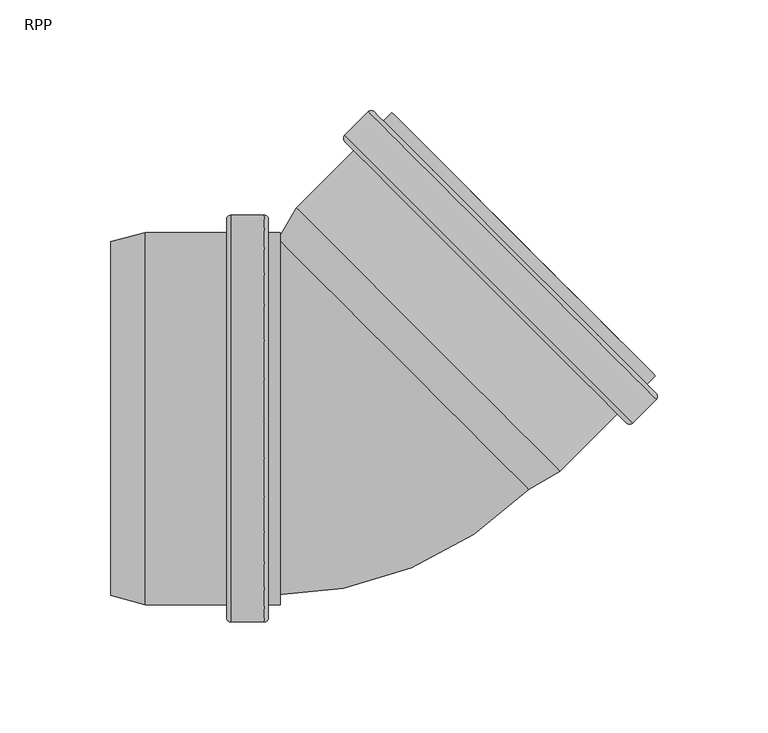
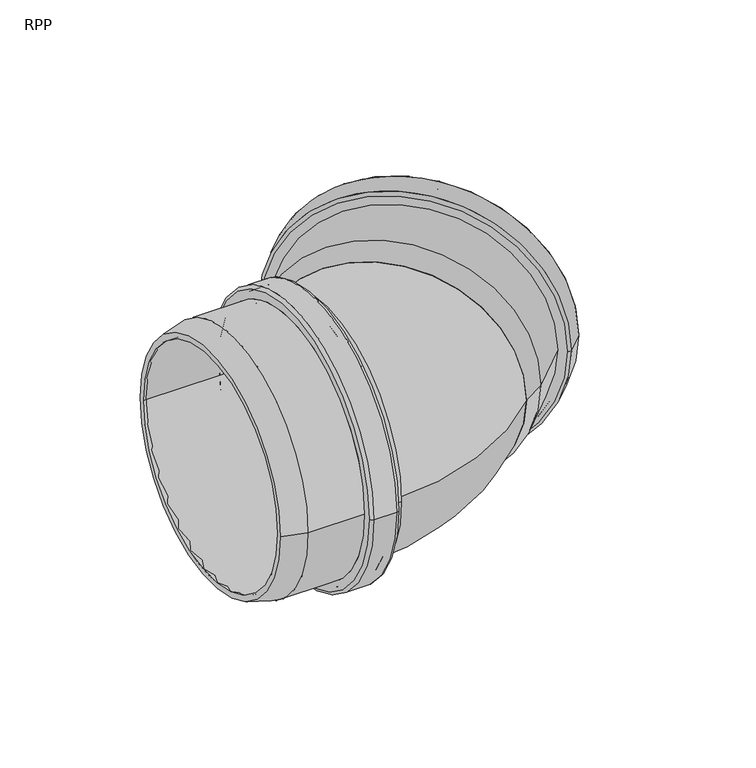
"""IFC4 building model written with IfcOpenShell, lengths in millimetres: pipe fitting geometry, RAUPIANO PLUS Bend : RPP."""

import ifcopenshell
import ifcopenshell.guid

model = None  # the IFC model being written
_history = None  # IfcOwnerHistory: only IFC2X3 demands one
_inside = {}  # id of a spatial element -> (the spatial element, [elements in it])
_under = {}  # id of a project, library or spatial element -> (it, [spatial elements below it])
_declared = {}  # id of a project -> (the project, [libraries it declares])
_typed = {}  # id of a type object -> (the type object, [elements of that type])
_made_of = {}  # id of a material, layer set ... -> (it, [elements and type objects made of it])


def new_model(schema):
    """Start an empty IFC model of exactly this schema.

    Asked for "IFC4X3", IfcOpenShell would pick the latest addendum, in which some entities
    have other attributes; the version numbers below select the first issue.
    IFC2X3 requires an IfcOwnerHistory on every rooted entity: one is made here for all.
    """
    global model, _history
    if schema == "IFC4X3":
        model = ifcopenshell.file(schema_version=(4, 3, 0, 0))
    else:
        model = ifcopenshell.file(schema=schema)
    _inside.clear()
    _under.clear()
    _declared.clear()
    _typed.clear()
    _made_of.clear()
    _history = None
    if model.schema == "IFC2X3":
        org = make("IfcOrganization", Name="unknown")
        user = make(
            "IfcPersonAndOrganization",
            ThePerson=make("IfcPerson", FamilyName="unknown"),
            TheOrganization=org,
        )
        app = make(
            "IfcApplication",
            ApplicationDeveloper=org,
            Version="unknown",
            ApplicationFullName="unknown",
            ApplicationIdentifier="unknown",
        )
        _history = make(
            "IfcOwnerHistory",
            OwningUser=user,
            OwningApplication=app,
            ChangeAction="ADDED",
            CreationDate=0,
        )
    return model


def make(cls, **values):
    """One entity of the class cls with the attributes given. An attribute that is None is left unset."""
    return model.create_entity(
        cls, **{name: value for name, value in values.items() if value is not None}
    )


def rooted(cls, **values):
    """An entity with a GlobalId (a new one), such as an element, a storey or a relation."""
    return make(cls, GlobalId=ifcopenshell.guid.new(), OwnerHistory=_history, **values)


def si_unit(unit_type, name, prefix=None):
    """IfcSIUnit, for example si_unit("LENGTHUNIT", "METRE", prefix="MILLI")."""
    return make("IfcSIUnit", UnitType=unit_type, Prefix=prefix, Name=name)


def assignment(units):
    """IfcUnitAssignment: the units of a project."""
    return None if units is None else make("IfcUnitAssignment", Units=units)


def point(xyz):
    """IfcCartesianPoint."""
    return None if xyz is None else make("IfcCartesianPoint", Coordinates=xyz)


def direction(xyz):
    """IfcDirection."""
    return None if xyz is None else make("IfcDirection", DirectionRatios=xyz)


def frame(location, z_axis=None, x_axis=None):
    """IfcAxis2Placement3D, a coordinate frame: its origin and axes. An axis left out is left unset."""
    return make(
        "IfcAxis2Placement3D",
        Location=point(location),
        Axis=direction(z_axis),
        RefDirection=direction(x_axis),
    )


def origin():
    """The frame at (0, 0, 0) with its axes left unset."""
    return frame((0.0, 0.0, 0.0))


def place(relative_to, where):
    """IfcLocalPlacement: puts the frame where relative to a parent placement (None: the world)."""
    return make(
        "IfcLocalPlacement", PlacementRelTo=relative_to, RelativePlacement=where
    )


def context(
    kind, dimensions, precision=None, world=None, true_north=None, identifier=None
):
    """IfcGeometricRepresentationContext, for example the 3D "Model" context."""
    return make(
        "IfcGeometricRepresentationContext",
        ContextIdentifier=identifier,
        ContextType=kind,
        CoordinateSpaceDimension=dimensions,
        Precision=precision,
        WorldCoordinateSystem=world,
        TrueNorth=true_north,
    )


def project(units=None, contexts=None):
    """IfcProject with its units and contexts."""
    return rooted(
        "IfcProject",
        Name="project",
        RepresentationContexts=contexts,
        UnitsInContext=assignment(units),
    )


def spatial(cls, under=None, at=None, **own):
    """A site, building, storey or space (cls), placed at a placement, below another one or the project."""
    s = rooted(cls, ObjectPlacement=at, **own)
    if under is not None:
        _under.setdefault(under.id(), (under, []))[1].append(s)
    return s


def polyline(points):
    """IfcPolyline through the points."""
    return make("IfcPolyline", Points=[point(p) for p in points])


def circle_curve(where, radius):
    """IfcCircle in the frame where."""
    return make("IfcCircle", Position=where, Radius=radius)


def ellipse_curve(where, semi_axis1, semi_axis2):
    """IfcEllipse in the frame where."""
    return make(
        "IfcEllipse", Position=where, SemiAxis1=semi_axis1, SemiAxis2=semi_axis2
    )


def trimmed(basis, trim1, trim2, sense, master):
    """IfcTrimmedCurve: the piece of a basis curve between two trims."""
    return make(
        "IfcTrimmedCurve",
        BasisCurve=basis,
        Trim1=trim1,
        Trim2=trim2,
        SenseAgreement=sense,
        MasterRepresentation=master,
    )


def shape(context_of_items, identifier, shape_type, items):
    """IfcShapeRepresentation: the items that make up one representation, for example the "Body"."""
    return make(
        "IfcShapeRepresentation",
        ContextOfItems=context_of_items,
        RepresentationIdentifier=identifier,
        RepresentationType=shape_type,
        Items=items,
    )


def source(mapping_origin, context_of_items, identifier, shape_type, items):
    """IfcRepresentationMap: a shape defined once, which mapped items show again and again."""
    return make(
        "IfcRepresentationMap",
        MappingOrigin=mapping_origin,
        MappedRepresentation=shape(context_of_items, identifier, shape_type, items),
    )


def transform(
    local_origin,
    x_axis=None,
    y_axis=None,
    z_axis=None,
    scale=None,
    scale2=None,
    scale3=None,
    uniform=True,
):
    """IfcCartesianTransformationOperator3D, or its non-uniform kind. x_axis, y_axis, z_axis: its Axis1, 2, 3."""
    if uniform:
        return make(
            "IfcCartesianTransformationOperator3D",
            Axis1=direction(x_axis),
            Axis2=direction(y_axis),
            LocalOrigin=point(local_origin),
            Scale=scale,
            Axis3=direction(z_axis),
        )
    return make(
        "IfcCartesianTransformationOperator3DnonUniform",
        Axis1=direction(x_axis),
        Axis2=direction(y_axis),
        LocalOrigin=point(local_origin),
        Scale=scale,
        Axis3=direction(z_axis),
        Scale2=scale2,
        Scale3=scale3,
    )


def mapped(mapping_source, mapping_target):
    """IfcMappedItem: shows the shape of a source again, moved by a transform."""
    return make(
        "IfcMappedItem", MappingSource=mapping_source, MappingTarget=mapping_target
    )


def made_of(thing, what):
    """Note that an element or type object is made of a material, layer set ...; save() writes the relation."""
    if what is not None:
        _made_of.setdefault(what.id(), (what, []))[1].append(thing)
    return thing


def element(
    cls,
    number,
    at=None,
    inside=None,
    cuts=None,
    type_object=None,
    material=None,
    context=None,
    identifier="Body",
    shape_type=None,
    held_by="IfcProductDefinitionShape",
    body=None,
    shapes=None,
    **own,
):
    """One element of the class cls, such as IfcWall. Its Tag is "e" and its number.

    at: its placement. inside: the storey or other place that contains it. cuts: it is an
    opening in that element (IfcRelVoidsElement). A single representation is given by context,
    identifier, shape_type and body (its items); several are given by shapes. held_by: the class
    of the entity that holds the representations. save() writes the other relations.
    """
    e = rooted(cls, Tag="e%d" % number, ObjectPlacement=at, **own)
    if body is not None:
        shapes = [shape(context, identifier, shape_type, body)]
    if shapes is not None:
        e.Representation = make(held_by, Representations=shapes)
    if inside is not None:
        _inside.setdefault(inside.id(), (inside, []))[1].append(e)
    if cuts is not None:
        rooted(
            "IfcRelVoidsElement", RelatingBuildingElement=cuts, RelatedOpeningElement=e
        )
    if type_object is not None:
        _typed.setdefault(type_object.id(), (type_object, []))[1].append(e)
    return made_of(e, material)


def aggregate(whole, parts):
    """IfcRelAggregates: a whole, such as a stair, and the parts it consists of."""
    return rooted("IfcRelAggregates", RelatingObject=whole, RelatedObjects=parts)


def save(model, path):
    """Write the relations noted so far, then the file.

    IfcRelAggregates (storeys below a building ...), IfcRelContainedInSpatialStructure (elements
    in a storey), IfcRelDefinesByType, IfcRelAssociatesMaterial and IfcRelDeclares: one each for
    every whole, place, type object, material and project.
    """
    for whole, parts in _under.values():
        aggregate(whole, parts)
    for where, things in _inside.values():
        rooted(
            "IfcRelContainedInSpatialStructure",
            RelatedElements=things,
            RelatingStructure=where,
        )
    for kind, things in _typed.values():
        rooted("IfcRelDefinesByType", RelatedObjects=things, RelatingType=kind)
    for what, things in _made_of.values():
        rooted("IfcRelAssociatesMaterial", RelatedObjects=things, RelatingMaterial=what)
    for by, libraries in _declared.values():
        rooted("IfcRelDeclares", RelatingContext=by, RelatedDefinitions=libraries)
    model.write(path)


def plane_surface(at):
    """IfcPlane: the flat surface through the origin of the frame at, square to its z axis."""
    return make("IfcPlane", Position=at)


def cylinder_surface(at, radius):
    """IfcCylindricalSurface: all points at the distance radius from the z axis of the frame at."""
    return make("IfcCylindricalSurface", Position=at, Radius=radius)


def revolved_surface(curve, axis_point, axis_direction):
    """IfcSurfaceOfRevolution: the curve turned about the line through axis_point along axis_direction."""
    return make(
        "IfcSurfaceOfRevolution",
        SweptCurve=make("IfcArbitraryOpenProfileDef", ProfileType="CURVE", Curve=curve),
        AxisPosition=make("IfcAxis1Placement", Location=point(axis_point), Axis=direction(axis_direction)),
    )


def advanced_brep(points, edges, surfaces, faces):
    """IfcAdvancedBrep: a solid bounded by faces that lie on surfaces and meet in shared edges.

    An edge is (start, end): straight between two places in points (the first is 0);
    or (start, end, curve); or (start, end, curve, False) where it runs against its curve.
    A face is (place in surfaces, loops), or (place, loops, False) where it looks against
    its surface's normal. A loop lists edges by number (the first is 1), with a minus sign
    where the edge is run from its end to its start. The first loop is the outer one.
    """
    corners = [point(p) for p in points]
    vertices = [make("IfcVertexPoint", VertexGeometry=c) for c in corners]
    made = []
    for start, end, *more in edges:
        made.append(
            make(
                "IfcEdgeCurve",
                EdgeStart=vertices[start],
                EdgeEnd=vertices[end],
                EdgeGeometry=more[0] if more else make("IfcPolyline", Points=[corners[start], corners[end]]),
                SameSense=more[1] if len(more) > 1 else True,
            )
        )
    hull = []
    for where, loops, *sense in faces:
        bounds = []
        for j, loop in enumerate(loops):
            ring = [make("IfcOrientedEdge", EdgeElement=made[abs(k) - 1], Orientation=k > 0) for k in loop]
            bounds.append(
                make(
                    "IfcFaceOuterBound" if j == 0 else "IfcFaceBound",
                    Bound=make("IfcEdgeLoop", EdgeList=ring),
                    Orientation=True,
                )
            )
        hull.append(make("IfcAdvancedFace", Bounds=bounds, FaceSurface=surfaces[where], SameSense=sense[0] if sense else True))
    return make("IfcAdvancedBrep", Outer=make("IfcClosedShell", CfsFaces=hull))


def rpp_70257316(model_context):
    return source(origin(), model_context, "Body", "AdvancedBrep", [
        advanced_brep(
        [(-51.4939392, -80.3, 0.0), (-51.4939392, 80.3, 0.0), (-91.6058811, 80.3, 0.0), (-91.6058811, -80.3, 0.0), (-50.9939392, -88.1, 0.0), (-50.9939392, 88.1, 0.0), (-51.4939392, 87.6, 0.0), (-51.4939392, -87.6, 0.0), (-40.8939392, -88.1, 0.0), (-40.8939392, 88.1, 0.0), (-40.3939392, -87.6, 0.0), (-40.3939392, 87.6, 0.0), (-31.0939392, -80.3, 0.0), (-31.0939392, 80.3, 0.0), (-40.3939392, 80.3, 0.0), (-40.3939392, -80.3, 0.0), (-36.4939392, -84.2, 0.0), (-36.4939392, 84.2, 0.0), (-31.0939392, 84.2, 0.0), (-31.0939392, -84.2, 0.0), (-38.4939392, -92.0, 0.0), (-38.4939392, 92.0, 0.0), (-36.4939392, 90.0, 0.0), (-36.4939392, -90.0, 0.0), (-53.3939392, -92.0, 0.0), (-53.3939392, 92.0, 0.0), (-55.3939392, -90.0, 0.0), (-55.3939392, 90.0, 0.0), (-92.1193258, -84.2, 0.0), (-92.1193258, 84.2, 0.0), (-55.3939392, 84.2, 0.0), (-55.3939392, -84.2, 0.0), (-107.7939392, -80.0, 0.0), (-107.7939392, 80.0, 0.0), (-107.7939392, 75.9624229, 0.0), (-107.7939392, -75.9624229, 0.0)],
        [
            (0, 1, circle_curve(frame((-51.4939392, 0.0, 0.0), z_axis=(1.0, 0.0, 0.0), x_axis=(0.0, 1.0, 0.0)), 80.3)),
            (1, 2),
            (2, 3, circle_curve(frame((-91.6058811, 0.0, 0.0), z_axis=(-1.0, 0.0, 0.0), x_axis=(0.0, 1.0, 0.0)), 80.3)),
            (3, 0),
            (4, 5, circle_curve(frame((-50.9939392, 0.0, 0.0), z_axis=(1.0, 0.0, 0.0), x_axis=(0.0, 1.0, 0.0)), 88.1)),
            (5, 6, circle_curve(frame((-50.9939392, 87.6, 0.0), z_axis=(0.0, 0.0, 1.0), x_axis=(0.0, -1.0, 0.0)), 0.5)),
            (6, 7, circle_curve(frame((-51.4939392, 0.0, 0.0), z_axis=(-1.0, 0.0, 0.0), x_axis=(0.0, 1.0, 0.0)), 87.6)),
            (7, 4, circle_curve(frame((-50.9939392, -87.6, 0.0), z_axis=(0.0, 0.0, 1.0), x_axis=(0.0, 1.0, 0.0)), 0.5)),
            (8, 9, circle_curve(frame((-40.8939392, 0.0, 0.0), z_axis=(1.0, 0.0, 0.0), x_axis=(0.0, 1.0, 0.0)), 88.1)),
            (9, 5),
            (4, 8),
            (10, 11, circle_curve(frame((-40.3939392, 0.0, 0.0), z_axis=(1.0, 0.0, 0.0), x_axis=(0.0, 1.0, 0.0)), 87.6)),
            (11, 9, circle_curve(frame((-40.8939392, 87.6, 0.0), z_axis=(0.0, 0.0, 1.0), x_axis=(0.0, -1.0, 0.0)), 0.5)),
            (8, 10, circle_curve(frame((-40.8939392, -87.6, 0.0), z_axis=(0.0, 0.0, 1.0), x_axis=(0.0, 1.0, 0.0)), 0.5)),
            (12, 13, circle_curve(frame((-31.0939392, 0.0, 0.0), z_axis=(1.0, 0.0, 0.0), x_axis=(0.0, 1.0, 0.0)), 80.3)),
            (13, 14),
            (14, 15, circle_curve(frame((-40.3939392, 0.0, 0.0), z_axis=(-1.0, 0.0, 0.0), x_axis=(0.0, 1.0, 0.0)), 80.3)),
            (15, 12),
            (16, 17, circle_curve(frame((-36.4939392, 0.0, 0.0), z_axis=(1.0, 0.0, 0.0), x_axis=(0.0, 1.0, 0.0)), 84.2)),
            (17, 18),
            (18, 19, circle_curve(frame((-31.0939392, 0.0, 0.0), z_axis=(-1.0, 0.0, 0.0), x_axis=(0.0, 1.0, 0.0)), 84.2)),
            (19, 16),
            (20, 21, circle_curve(frame((-38.4939392, 0.0, 0.0), z_axis=(1.0, 0.0, 0.0), x_axis=(0.0, 1.0, 0.0)), 92.0)),
            (21, 22, circle_curve(frame((-38.4939392, 90.0, 0.0), z_axis=(0.0, 0.0, -1.0), x_axis=(0.0, -1.0, 0.0)), 2.0)),
            (22, 23, circle_curve(frame((-36.4939392, 0.0, 0.0), z_axis=(-1.0, 0.0, 0.0), x_axis=(0.0, 1.0, 0.0)), 90.0)),
            (23, 20, circle_curve(frame((-38.4939392, -90.0, 0.0), z_axis=(0.0, 0.0, -1.0), x_axis=(0.0, 1.0, 0.0)), 2.0)),
            (24, 25, circle_curve(frame((-53.3939392, 0.0, 0.0), z_axis=(1.0, 0.0, 0.0), x_axis=(0.0, 1.0, 0.0)), 92.0)),
            (25, 21),
            (20, 24),
            (26, 27, circle_curve(frame((-55.3939392, 0.0, 0.0), z_axis=(1.0, 0.0, 0.0), x_axis=(0.0, 1.0, 0.0)), 90.0)),
            (27, 25, circle_curve(frame((-53.3939392, 90.0, 0.0), z_axis=(0.0, 0.0, -1.0), x_axis=(0.0, -1.0, 0.0)), 2.0)),
            (24, 26, circle_curve(frame((-53.3939392, -90.0, 0.0), z_axis=(0.0, 0.0, -1.0), x_axis=(0.0, 1.0, 0.0)), 2.0)),
            (28, 29, circle_curve(frame((-92.1193258, 0.0, 0.0), z_axis=(1.0, 0.0, 0.0), x_axis=(0.0, 1.0, 0.0)), 84.2)),
            (29, 30),
            (30, 31, circle_curve(frame((-55.3939392, 0.0, 0.0), z_axis=(-1.0, 0.0, 0.0), x_axis=(0.0, 1.0, 0.0)), 84.2)),
            (31, 28),
            (32, 33, circle_curve(frame((-107.7939392, 0.0, 0.0), z_axis=(1.0, 0.0, 0.0), x_axis=(0.0, 1.0, 0.0)), 80.0)),
            (33, 29),
            (28, 32),
            (2, 34),
            (34, 35, circle_curve(frame((-107.7939392, 0.0, 0.0), z_axis=(-1.0, 0.0, 0.0), x_axis=(0.0, 1.0, 0.0)), 75.9624229)),
            (35, 3),
            (1, 0, circle_curve(frame((-51.4939392, 0.0, 0.0), z_axis=(1.0, 0.0, 0.0), x_axis=(0.0, -1.0, 0.0)), 80.3)),
            (3, 2, circle_curve(frame((-91.6058811, 0.0, 0.0), z_axis=(-1.0, 0.0, 0.0), x_axis=(0.0, -1.0, 0.0)), 80.3)),
            (6, 7, circle_curve(frame((-51.4939392, 0.0, 0.0), z_axis=(1.0, 0.0, 0.0), x_axis=(0.0, -1.0, 0.0)), 87.6)),
            (5, 4, circle_curve(frame((-50.9939392, 0.0, 0.0), z_axis=(1.0, 0.0, 0.0), x_axis=(0.0, -1.0, 0.0)), 88.1)),
            (9, 8, circle_curve(frame((-40.8939392, 0.0, 0.0), z_axis=(1.0, 0.0, 0.0), x_axis=(0.0, -1.0, 0.0)), 88.1)),
            (11, 10, circle_curve(frame((-40.3939392, 0.0, 0.0), z_axis=(1.0, 0.0, 0.0), x_axis=(0.0, -1.0, 0.0)), 87.6)),
            (14, 15, circle_curve(frame((-40.3939392, 0.0, 0.0), z_axis=(1.0, 0.0, 0.0), x_axis=(0.0, -1.0, 0.0)), 80.3)),
            (13, 12, circle_curve(frame((-31.0939392, 0.0, 0.0), z_axis=(1.0, 0.0, 0.0), x_axis=(0.0, -1.0, 0.0)), 80.3)),
            (18, 19, circle_curve(frame((-31.0939392, 0.0, 0.0), z_axis=(1.0, 0.0, 0.0), x_axis=(0.0, -1.0, 0.0)), 84.2)),
            (17, 16, circle_curve(frame((-36.4939392, 0.0, 0.0), z_axis=(1.0, 0.0, 0.0), x_axis=(0.0, -1.0, 0.0)), 84.2)),
            (22, 23, circle_curve(frame((-36.4939392, 0.0, 0.0), z_axis=(1.0, 0.0, 0.0), x_axis=(0.0, -1.0, 0.0)), 90.0)),
            (21, 20, circle_curve(frame((-38.4939392, 0.0, 0.0), z_axis=(1.0, 0.0, 0.0), x_axis=(0.0, -1.0, 0.0)), 92.0)),
            (25, 24, circle_curve(frame((-53.3939392, 0.0, 0.0), z_axis=(1.0, 0.0, 0.0), x_axis=(0.0, -1.0, 0.0)), 92.0)),
            (27, 26, circle_curve(frame((-55.3939392, 0.0, 0.0), z_axis=(1.0, 0.0, 0.0), x_axis=(0.0, -1.0, 0.0)), 90.0)),
            (30, 31, circle_curve(frame((-55.3939392, 0.0, 0.0), z_axis=(1.0, 0.0, 0.0), x_axis=(0.0, -1.0, 0.0)), 84.2)),
            (29, 28, circle_curve(frame((-92.1193258, 0.0, 0.0), z_axis=(1.0, 0.0, 0.0), x_axis=(0.0, -1.0, 0.0)), 84.2)),
            (33, 32, circle_curve(frame((-107.7939392, 0.0, 0.0), z_axis=(1.0, 0.0, 0.0), x_axis=(0.0, -1.0, 0.0)), 80.0)),
            (34, 35, circle_curve(frame((-107.7939392, 0.0, 0.0), z_axis=(1.0, 0.0, 0.0), x_axis=(0.0, -1.0, 0.0)), 75.9624229)),
        ],
        [
            revolved_surface(polyline([(-91.6058811, 80.3, 0.0), (-51.4939392, 80.3, 0.0)]), (-107.7939392, 0.0, 0.0), (-1.0, 0.0, 0.0)),
            revolved_surface(trimmed(ellipse_curve(frame((-50.9939392, 87.6, 0.0), z_axis=(0.0, 0.0, -1.0), x_axis=(0.0, -1.0, 0.0)), 0.5, 0.5), [point((-51.4939392, 87.6, 0.0))], [point((-50.9939392, 88.1, 0.0))], True, "CARTESIAN"), (-107.7939392, 0.0, 0.0), (-1.0, 0.0, 0.0)),
            revolved_surface(polyline([(-50.9939392, 88.1, 0.0), (-40.89393919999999, 88.1, 0.0)]), (-107.7939392, 0.0, 0.0), (-1.0, 0.0, 0.0)),
            revolved_surface(trimmed(ellipse_curve(frame((-40.8939392, 87.6, 0.0), z_axis=(0.0, 0.0, -1.0), x_axis=(0.0, -1.0, 0.0)), 0.5, 0.5), [point((-40.8939392, 88.1, 0.0))], [point((-40.3939392, 87.6, 0.0))], True, "CARTESIAN"), (-107.7939392, 0.0, 0.0), (-1.0, 0.0, 0.0)),
            revolved_surface(polyline([(-40.39393919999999, 80.3, 0.0), (-31.09393920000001, 80.3, 0.0)]), (-107.7939392, 0.0, 0.0), (-1.0, 0.0, 0.0)),
            cylinder_surface(frame((-107.7939392, 0.0, 0.0), z_axis=(-1.0, 0.0, 0.0), x_axis=(0.0, 1.0, 0.0)), 84.2),
            revolved_surface(trimmed(ellipse_curve(frame((-38.4939392, 90.0, 0.0), z_axis=(0.0, 0.0, 1.0), x_axis=(0.0, -1.0, 0.0)), 2.0, 2.0), [point((-36.4939392, 90.0, 0.0))], [point((-38.4939392, 92.0, 0.0))], True, "CARTESIAN"), (-107.7939392, 0.0, 0.0), (-1.0, 0.0, 0.0)),
            cylinder_surface(frame((-107.7939392, 0.0, 0.0), z_axis=(-1.0, 0.0, 0.0), x_axis=(0.0, 1.0, 0.0)), 92.0),
            revolved_surface(trimmed(ellipse_curve(frame((-53.3939392, 90.0, 0.0), z_axis=(0.0, 0.0, 1.0), x_axis=(0.0, -1.0, 0.0)), 2.0, 2.0), [point((-53.3939392, 92.0, 0.0))], [point((-55.3939392, 90.0, 0.0))], True, "CARTESIAN"), (-107.7939392, 0.0, 0.0), (-1.0, 0.0, 0.0)),
            revolved_surface(polyline([(-92.1193258, 84.2, 0.0), (-107.7939392, 80.0, 0.0)]), (-107.7939392, 0.0, 0.0), (-1.0, 0.0, 0.0)),
            revolved_surface(polyline([(-107.7939392, 75.9624229, 0.0), (-91.6058811, 80.3, 0.0)]), (-107.7939392, 0.0, 0.0), (-1.0, 0.0, 0.0)),
            revolved_surface(polyline([(-91.6058811, -80.3, 0.0), (-51.4939392, -80.3, 0.0)]), (-107.7939392, 0.0, 0.0), (-1.0, 0.0, 0.0)),
            plane_surface(frame((-51.4939392, 0.0, 0.0), z_axis=(1.0, 0.0, 0.0), x_axis=(0.0, -1.0, 0.0))),
            revolved_surface(trimmed(ellipse_curve(frame((-50.9939392, -87.6, 0.0), z_axis=(0.0, 0.0, 1.0), x_axis=(0.0, 1.0, 0.0)), 0.5, 0.5), [point((-51.4939392, -87.6, 0.0))], [point((-50.9939392, -88.1, 0.0))], True, "CARTESIAN"), (-107.7939392, 0.0, 0.0), (-1.0, 0.0, 0.0)),
            revolved_surface(polyline([(-50.9939392, -88.1, 0.0), (-40.89393919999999, -88.1, 0.0)]), (-107.7939392, 0.0, 0.0), (-1.0, 0.0, 0.0)),
            revolved_surface(trimmed(ellipse_curve(frame((-40.8939392, -87.6, 0.0), z_axis=(0.0, 0.0, 1.0), x_axis=(0.0, 1.0, 0.0)), 0.5, 0.5), [point((-40.8939392, -88.1, 0.0))], [point((-40.3939392, -87.6, 0.0))], True, "CARTESIAN"), (-107.7939392, 0.0, 0.0), (-1.0, 0.0, 0.0)),
            plane_surface(frame((-40.3939392, 0.0, 0.0), z_axis=(-1.0, 0.0, 0.0), x_axis=(0.0, -1.0, 0.0))),
            revolved_surface(polyline([(-40.39393919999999, -80.3, 0.0), (-31.09393920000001, -80.3, 0.0)]), (-107.7939392, 0.0, 0.0), (-1.0, 0.0, 0.0)),
            plane_surface(frame((-31.0939392, 0.0, 0.0), z_axis=(1.0, 0.0, 0.0), x_axis=(0.0, -1.0, 0.0))),
            cylinder_surface(frame((-107.7939392, 0.0, 0.0), z_axis=(-1.0, 0.0, 0.0), x_axis=(0.0, -1.0, 0.0)), 84.2),
            plane_surface(frame((-36.4939392, 0.0, 0.0), z_axis=(1.0, 0.0, 0.0), x_axis=(0.0, -1.0, 0.0))),
            revolved_surface(trimmed(ellipse_curve(frame((-38.4939392, -90.0, 0.0), z_axis=(0.0, 0.0, -1.0), x_axis=(0.0, 1.0, 0.0)), 2.0, 2.0), [point((-36.4939392, -90.0, 0.0))], [point((-38.4939392, -92.0, 0.0))], True, "CARTESIAN"), (-107.7939392, 0.0, 0.0), (-1.0, 0.0, 0.0)),
            cylinder_surface(frame((-107.7939392, 0.0, 0.0), z_axis=(-1.0, 0.0, 0.0), x_axis=(0.0, -1.0, 0.0)), 92.0),
            revolved_surface(trimmed(ellipse_curve(frame((-53.3939392, -90.0, 0.0), z_axis=(0.0, 0.0, -1.0), x_axis=(0.0, 1.0, 0.0)), 2.0, 2.0), [point((-53.3939392, -92.0, 0.0))], [point((-55.3939392, -90.0, 0.0))], True, "CARTESIAN"), (-107.7939392, 0.0, 0.0), (-1.0, 0.0, 0.0)),
            plane_surface(frame((-55.3939392, 0.0, 0.0), z_axis=(-1.0, 0.0, 0.0), x_axis=(0.0, -1.0, 0.0))),
            revolved_surface(polyline([(-92.1193258, -84.2, 0.0), (-107.7939392, -80.0, 0.0)]), (-107.7939392, 0.0, 0.0), (-1.0, 0.0, 0.0)),
            plane_surface(frame((-107.7939392, 0.0, 0.0), z_axis=(-1.0, 0.0, 0.0), x_axis=(0.0, -1.0, 0.0))),
            revolved_surface(polyline([(-107.7939392, -75.9624229, 0.0), (-91.6058811, -80.3, 0.0)]), (-107.7939392, 0.0, 0.0), (-1.0, 0.0, 0.0)),
        ],
        [
            (0, [[1, 2, 3, 4]]),
            (1, [[5, 6, 7, 8]]),
            (2, [[9, 10, -5, 11]]),
            (3, [[12, 13, -9, 14]]),
            (4, [[15, 16, 17, 18]]),
            (5, [[19, 20, 21, 22]]),
            (6, [[23, 24, 25, 26]]),
            (7, [[27, 28, -23, 29]]),
            (8, [[30, 31, -27, 32]]),
            (5, [[33, 34, 35, 36]]),
            (9, [[37, 38, -33, 39]]),
            (10, [[-3, 40, 41, 42]]),
            (11, [[43, -4, 44, -2]]),
            (12, [[45, -7], [-43, -1]]),
            (13, [[46, -8, -45, -6]]),
            (14, [[47, -11, -46, -10]]),
            (15, [[48, -14, -47, -13]]),
            (16, [[-48, -12], [49, -17]]),
            (17, [[50, -18, -49, -16]]),
            (18, [[51, -21], [-50, -15]]),
            (19, [[52, -22, -51, -20]]),
            (20, [[53, -25], [-52, -19]]),
            (21, [[54, -26, -53, -24]]),
            (22, [[55, -29, -54, -28]]),
            (23, [[56, -32, -55, -31]]),
            (24, [[-56, -30], [57, -35]]),
            (19, [[58, -36, -57, -34]]),
            (25, [[59, -39, -58, -38]]),
            (26, [[-59, -37], [60, -41]]),
            (27, [[-44, -42, -60, -40]]),
        ],
    ),
        advanced_brep(
        [(78.3165747, -29.110514, 0.0), (-29.110514, 78.3165747, 0.0), (-20.7309585, 92.8303906, 0.0), (92.8303906, -20.7309585, 0.0), (95.2250468, -23.8517352, 0.0), (-23.8517352, 95.2250468, 0.0), (-31.9655121, 81.1715729, 0.0), (81.1715729, -31.9655121, 0.0), (121.1938167, 2.1170347, 0.0), (2.1170347, 121.1938167, 0.0), (138.6593542, 8.5517064, 0.0), (8.5517064, 138.6593542, 0.0), (-1.9841846, 128.1234631, 0.0), (128.1234631, -1.9841846, 0.0), (138.3765115, 19.2997295, 0.0), (19.2997295, 138.3765115, 0.0), (15.4813529, 134.5581349, 0.0), (134.5581349, 15.4813529, 0.0), (129.042702, 15.4813529, 0.0), (15.4813529, 129.042702, 0.0), (22.057446, 135.618795, 0.0), (135.618795, 22.057446, 0.0), (127.062803, 2.4705881, 0.0), (2.4705881, 127.062803, 0.0), (9.6123666, 134.2045815, 0.0), (134.2045815, 9.6123666, 0.0), (7.6324676, 121.1938167, 0.0), (121.1938167, 7.6324676, 0.0), (-1.9841846, 125.295036, 0.0), (125.295036, -1.9841846, 0.0), (138.6593542, 11.3801336, 0.0), (11.3801336, 138.6593542, 0.0), (10.3194734, 134.2045815, 0.0), (134.2045815, 10.3194734, 0.0), (126.3556962, 2.4705881, 0.0), (2.4705881, 126.3556962, 0.0)],
        [
            (0, 1, circle_curve(frame((24.6030304, 24.6030304, 0.0), z_axis=(-0.7071067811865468, -0.7071067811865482, 0.0), x_axis=(-0.7071067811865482, 0.7071067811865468, 0.0)), 75.9624229)),
            (1, 2),
            (2, 3, circle_curve(frame((36.0497161, 36.0497161, 0.0), z_axis=(0.7071067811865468, 0.7071067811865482, 0.0), x_axis=(-0.7071067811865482, 0.7071067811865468, 0.0)), 80.3)),
            (3, 0),
            (4, 5, circle_curve(frame((35.6866558, 35.6866558, 0.0), z_axis=(-0.7071067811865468, -0.7071067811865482, 0.0), x_axis=(-0.7071067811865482, 0.7071067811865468, 0.0)), 84.2)),
            (5, 6),
            (6, 7, circle_curve(frame((24.6030304, 24.6030304, 0.0), z_axis=(0.7071067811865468, 0.7071067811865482, 0.0), x_axis=(-0.7071067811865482, 0.7071067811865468, 0.0)), 80.0)),
            (7, 4),
            (8, 9, circle_curve(frame((61.6554257, 61.6554257, 0.0), z_axis=(-0.7071067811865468, -0.7071067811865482, 0.0), x_axis=(-0.7071067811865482, 0.7071067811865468, 0.0)), 84.2)),
            (9, 5),
            (4, 8),
            (10, 11, circle_curve(frame((73.6055303, 73.6055303, 0.0), z_axis=(-0.7071067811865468, -0.7071067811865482, 0.0), x_axis=(-0.7071067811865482, 0.7071067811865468, 0.0)), 92.0)),
            (11, 12),
            (12, 13, circle_curve(frame((63.0696393, 63.0696393, 0.0), z_axis=(0.7071067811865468, 0.7071067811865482, 0.0), x_axis=(-0.7071067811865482, 0.7071067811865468, 0.0)), 92.0)),
            (13, 10),
            (14, 15, circle_curve(frame((78.8381205, 78.8381205, 0.0), z_axis=(-0.7071067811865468, -0.7071067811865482, 0.0), x_axis=(-0.7071067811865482, 0.7071067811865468, 0.0)), 84.2)),
            (15, 16),
            (16, 17, circle_curve(frame((75.0197439, 75.0197439, 0.0), z_axis=(0.7071067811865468, 0.7071067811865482, 0.0), x_axis=(-0.7071067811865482, 0.7071067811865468, 0.0)), 84.2)),
            (17, 14),
            (18, 19, circle_curve(frame((72.2620274, 72.2620274, 0.0), z_axis=(-0.7071067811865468, -0.7071067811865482, 0.0), x_axis=(-0.7071067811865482, 0.7071067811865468, 0.0)), 80.3)),
            (19, 20),
            (20, 21, circle_curve(frame((78.8381205, 78.8381205, 0.0), z_axis=(0.7071067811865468, 0.7071067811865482, 0.0), x_axis=(-0.7071067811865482, 0.7071067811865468, 0.0)), 80.3)),
            (21, 18),
            (22, 23, circle_curve(frame((64.7666956, 64.7666956, 0.0), z_axis=(-0.7071067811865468, -0.7071067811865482, 0.0), x_axis=(-0.7071067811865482, 0.7071067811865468, 0.0)), 88.1)),
            (23, 24),
            (24, 25, circle_curve(frame((71.908474, 71.908474, 0.0), z_axis=(0.7071067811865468, 0.7071067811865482, 0.0), x_axis=(-0.7071067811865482, 0.7071067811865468, 0.0)), 88.1)),
            (25, 22),
            (2, 26),
            (26, 27, circle_curve(frame((64.4131422, 64.4131422, 0.0), z_axis=(0.7071067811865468, 0.7071067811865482, 0.0), x_axis=(-0.7071067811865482, 0.7071067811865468, 0.0)), 80.3)),
            (27, 3),
            (1, 0, circle_curve(frame((24.6030304, 24.6030304, 0.0), z_axis=(-0.7071067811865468, -0.7071067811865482, 0.0), x_axis=(0.7071067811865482, -0.7071067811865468, 0.0)), 75.9624229)),
            (3, 2, circle_curve(frame((36.0497161, 36.0497161, 0.0), z_axis=(0.7071067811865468, 0.7071067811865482, 0.0), x_axis=(0.7071067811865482, -0.7071067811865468, 0.0)), 80.3)),
            (6, 7, circle_curve(frame((24.6030304, 24.6030304, 0.0), z_axis=(-0.7071067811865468, -0.7071067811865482, 0.0), x_axis=(0.7071067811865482, -0.7071067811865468, 0.0)), 80.0)),
            (5, 4, circle_curve(frame((35.6866558, 35.6866558, 0.0), z_axis=(-0.7071067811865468, -0.7071067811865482, 0.0), x_axis=(0.7071067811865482, -0.7071067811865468, 0.0)), 84.2)),
            (9, 8, circle_curve(frame((61.6554257, 61.6554257, 0.0), z_axis=(-0.7071067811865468, -0.7071067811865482, 0.0), x_axis=(0.7071067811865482, -0.7071067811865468, 0.0)), 84.2)),
            (28, 29, circle_curve(frame((61.6554257, 61.6554257, 0.0), z_axis=(-0.7071067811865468, -0.7071067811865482, 0.0), x_axis=(0.7071067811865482, -0.7071067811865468, 0.0)), 90.0)),
            (29, 28, circle_curve(frame((61.6554257, 61.6554257, 0.0), z_axis=(-0.7071067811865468, -0.7071067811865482, 0.0), x_axis=(-0.7071067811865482, 0.7071067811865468, 0.0)), 90.0)),
            (11, 10, circle_curve(frame((73.6055303, 73.6055303, 0.0), z_axis=(-0.7071067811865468, -0.7071067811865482, 0.0), x_axis=(0.7071067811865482, -0.7071067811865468, 0.0)), 92.0)),
            (13, 12, circle_curve(frame((63.0696393, 63.0696393, 0.0), z_axis=(0.7071067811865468, 0.7071067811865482, 0.0), x_axis=(0.7071067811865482, -0.7071067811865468, 0.0)), 92.0)),
            (30, 31, circle_curve(frame((75.0197439, 75.0197439, 0.0), z_axis=(0.7071067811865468, 0.7071067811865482, 0.0), x_axis=(0.7071067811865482, -0.7071067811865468, 0.0)), 90.0)),
            (31, 30, circle_curve(frame((75.0197439, 75.0197439, 0.0), z_axis=(0.7071067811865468, 0.7071067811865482, 0.0), x_axis=(-0.7071067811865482, 0.7071067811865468, 0.0)), 90.0)),
            (16, 17, circle_curve(frame((75.0197439, 75.0197439, 0.0), z_axis=(-0.7071067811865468, -0.7071067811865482, 0.0), x_axis=(0.7071067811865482, -0.7071067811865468, 0.0)), 84.2)),
            (15, 14, circle_curve(frame((78.8381205, 78.8381205, 0.0), z_axis=(-0.7071067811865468, -0.7071067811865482, 0.0), x_axis=(0.7071067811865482, -0.7071067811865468, 0.0)), 84.2)),
            (20, 21, circle_curve(frame((78.8381205, 78.8381205, 0.0), z_axis=(-0.7071067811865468, -0.7071067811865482, 0.0), x_axis=(0.7071067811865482, -0.7071067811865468, 0.0)), 80.3)),
            (19, 18, circle_curve(frame((72.2620274, 72.2620274, 0.0), z_axis=(-0.7071067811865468, -0.7071067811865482, 0.0), x_axis=(0.7071067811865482, -0.7071067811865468, 0.0)), 80.3)),
            (32, 33, circle_curve(frame((72.2620274, 72.2620274, 0.0), z_axis=(-0.7071067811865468, -0.7071067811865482, 0.0), x_axis=(0.7071067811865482, -0.7071067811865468, 0.0)), 87.6)),
            (33, 32, circle_curve(frame((72.2620274, 72.2620274, 0.0), z_axis=(-0.7071067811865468, -0.7071067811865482, 0.0), x_axis=(-0.7071067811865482, 0.7071067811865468, 0.0)), 87.6)),
            (23, 22, circle_curve(frame((64.7666956, 64.7666956, 0.0), z_axis=(-0.7071067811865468, -0.7071067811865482, 0.0), x_axis=(0.7071067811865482, -0.7071067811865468, 0.0)), 88.1)),
            (25, 24, circle_curve(frame((71.908474, 71.908474, 0.0), z_axis=(0.7071067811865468, 0.7071067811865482, 0.0), x_axis=(0.7071067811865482, -0.7071067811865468, 0.0)), 88.1)),
            (34, 35, circle_curve(frame((64.4131422, 64.4131422, 0.0), z_axis=(0.7071067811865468, 0.7071067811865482, 0.0), x_axis=(0.7071067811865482, -0.7071067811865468, 0.0)), 87.6)),
            (35, 34, circle_curve(frame((64.4131422, 64.4131422, 0.0), z_axis=(0.7071067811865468, 0.7071067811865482, 0.0), x_axis=(-0.7071067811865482, 0.7071067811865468, 0.0)), 87.6)),
            (26, 27, circle_curve(frame((64.4131422, 64.4131422, 0.0), z_axis=(-0.7071067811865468, -0.7071067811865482, 0.0), x_axis=(0.7071067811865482, -0.7071067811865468, 0.0)), 80.3)),
            (12, 28, circle_curve(frame((-0.569971, 126.7092496, 0.0), z_axis=(0.0, 0.0, 1.0), x_axis=(0.7071067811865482, -0.7071067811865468, 0.0)), 2.0)),
            (29, 13, circle_curve(frame((126.7092496, -0.569971, 0.0), z_axis=(0.0, 0.0, 1.0), x_axis=(-0.7071067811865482, 0.7071067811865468, 0.0)), 2.0)),
            (31, 11, circle_curve(frame((9.96592, 137.2451406, 0.0), z_axis=(0.0, 0.0, 1.0), x_axis=(0.7071067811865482, -0.7071067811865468, 0.0)), 2.0)),
            (10, 30, circle_curve(frame((137.2451406, 9.96592, 0.0), z_axis=(0.0, 0.0, 1.0), x_axis=(-0.7071067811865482, 0.7071067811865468, 0.0)), 2.0)),
            (24, 32, circle_curve(frame((9.96592, 133.8510281, 0.0), z_axis=(0.0, 0.0, -1.0), x_axis=(0.7071067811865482, -0.7071067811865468, 0.0)), 0.5)),
            (33, 25, circle_curve(frame((133.8510281, 9.96592, 0.0), z_axis=(0.0, 0.0, -1.0), x_axis=(-0.7071067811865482, 0.7071067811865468, 0.0)), 0.5)),
            (35, 23, circle_curve(frame((2.8241415, 126.7092496, 0.0), z_axis=(0.0, 0.0, -1.0), x_axis=(0.7071067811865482, -0.7071067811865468, 0.0)), 0.5)),
            (22, 34, circle_curve(frame((126.7092496, 2.8241415, 0.0), z_axis=(0.0, 0.0, -1.0), x_axis=(-0.7071067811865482, 0.7071067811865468, 0.0)), 0.5)),
        ],
        [
            revolved_surface(polyline([(-20.7309585, 92.8303906, 0.0), (-29.110514, 78.3165747, 0.0)]), (24.6030304, 24.6030304, 0.0), (0.7071067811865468, 0.7071067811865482, 0.0)),
            revolved_surface(polyline([(-31.9655121, 81.1715729, 0.0), (-23.8517352, 95.2250468, 0.0)]), (24.6030304, 24.6030304, 0.0), (0.7071067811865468, 0.7071067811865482, 0.0)),
            cylinder_surface(frame((24.6030304, 24.6030304, 0.0), z_axis=(0.7071067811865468, 0.7071067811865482, 0.0), x_axis=(-0.7071067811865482, 0.7071067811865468, 0.0)), 84.2),
            cylinder_surface(frame((24.6030304, 24.6030304, 0.0), z_axis=(0.7071067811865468, 0.7071067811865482, 0.0), x_axis=(-0.7071067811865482, 0.7071067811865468, 0.0)), 92.0),
            revolved_surface(polyline([(22.057445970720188, 135.61879502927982, 0.0), (15.481352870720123, 129.04270192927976, 0.0)]), (24.6030304, 24.6030304, 0.0), (0.7071067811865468, 0.7071067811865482, 0.0)),
            revolved_surface(polyline([(9.612366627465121, 134.20458147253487, 0.0), (2.470588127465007, 127.06280297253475, 0.0)]), (24.6030304, 24.6030304, 0.0), (0.7071067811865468, 0.7071067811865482, 0.0)),
            revolved_surface(polyline([(7.632467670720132, 121.19381672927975, 0.0), (-20.73095847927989, 92.83039057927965, 0.0)]), (24.6030304, 24.6030304, 0.0), (0.7071067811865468, 0.7071067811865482, 0.0)),
            revolved_surface(polyline([(92.8303906, -20.7309585, 0.0), (78.3165747, -29.110514, 0.0)]), (24.6030304, 24.6030304, 0.0), (0.7071067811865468, 0.7071067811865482, 0.0)),
            plane_surface(frame((24.6030304, 24.6030304, 0.0), z_axis=(-0.7071067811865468, -0.7071067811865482, 0.0), x_axis=(0.7071067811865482, -0.7071067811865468, 0.0))),
            revolved_surface(polyline([(81.1715729, -31.9655121, 0.0), (95.2250468, -23.8517352, 0.0)]), (24.6030304, 24.6030304, 0.0), (0.7071067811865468, 0.7071067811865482, 0.0)),
            cylinder_surface(frame((24.6030304, 24.6030304, 0.0), z_axis=(0.7071067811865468, 0.7071067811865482, 0.0), x_axis=(0.7071067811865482, -0.7071067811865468, 0.0)), 84.2),
            plane_surface(frame((61.6554257, 61.6554257, 0.0), z_axis=(-0.7071067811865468, -0.7071067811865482, 0.0), x_axis=(0.7071067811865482, -0.7071067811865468, 0.0))),
            cylinder_surface(frame((24.6030304, 24.6030304, 0.0), z_axis=(0.7071067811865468, 0.7071067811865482, 0.0), x_axis=(0.7071067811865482, -0.7071067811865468, 0.0)), 92.0),
            plane_surface(frame((75.0197439, 75.0197439, 0.0), z_axis=(0.7071067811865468, 0.7071067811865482, 0.0), x_axis=(0.7071067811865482, -0.7071067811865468, 0.0))),
            plane_surface(frame((78.8381205, 78.8381205, 0.0), z_axis=(0.7071067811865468, 0.7071067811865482, 0.0), x_axis=(0.7071067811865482, -0.7071067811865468, 0.0))),
            revolved_surface(polyline([(135.61879502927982, 22.05744597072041, 0.0), (129.04270192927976, 15.481352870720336, 0.0)]), (24.6030304, 24.6030304, 0.0), (0.7071067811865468, 0.7071067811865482, 0.0)),
            plane_surface(frame((72.2620274, 72.2620274, 0.0), z_axis=(-0.7071067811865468, -0.7071067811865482, 0.0), x_axis=(0.7071067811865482, -0.7071067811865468, 0.0))),
            revolved_surface(polyline([(134.20458147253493, 9.612366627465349, 0.0), (127.0628029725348, 2.47058812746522, 0.0)]), (24.6030304, 24.6030304, 0.0), (0.7071067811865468, 0.7071067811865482, 0.0)),
            plane_surface(frame((64.4131422, 64.4131422, 0.0), z_axis=(0.7071067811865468, 0.7071067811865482, 0.0), x_axis=(0.7071067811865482, -0.7071067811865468, 0.0))),
            revolved_surface(polyline([(121.19381672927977, 7.632467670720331, 0.0), (92.83039057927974, -20.730958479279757, 0.0)]), (24.6030304, 24.6030304, 0.0), (0.7071067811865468, 0.7071067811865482, 0.0)),
            revolved_surface(trimmed(ellipse_curve(frame((-0.569971, 126.7092496, 0.0), z_axis=(0.0, 0.0, -1.0), x_axis=(0.7071067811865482, -0.7071067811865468, 0.0)), 2.0, 2.0), [point((-1.9841846, 125.295036, 0.0))], [point((-1.9841846, 128.1234631, 0.0))], True, "CARTESIAN"), (24.6030304, 24.6030304, 0.0), (0.7071067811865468, 0.7071067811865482, 0.0)),
            revolved_surface(trimmed(ellipse_curve(frame((9.96592, 137.2451406, 0.0), z_axis=(0.0, 0.0, -1.0), x_axis=(0.7071067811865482, -0.7071067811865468, 0.0)), 2.0, 2.0), [point((8.5517064, 138.6593542, 0.0))], [point((11.3801336, 138.6593542, 0.0))], True, "CARTESIAN"), (24.6030304, 24.6030304, 0.0), (0.7071067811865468, 0.7071067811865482, 0.0)),
            revolved_surface(trimmed(ellipse_curve(frame((9.96592, 133.8510281, 0.0), z_axis=(0.0, 0.0, 1.0), x_axis=(0.7071067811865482, -0.7071067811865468, 0.0)), 0.5, 0.5), [point((10.3194734, 134.2045815, 0.0))], [point((9.6123666, 134.2045815, 0.0))], True, "CARTESIAN"), (24.6030304, 24.6030304, 0.0), (0.7071067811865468, 0.7071067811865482, 0.0)),
            revolved_surface(trimmed(ellipse_curve(frame((2.8241415, 126.7092496, 0.0), z_axis=(0.0, 0.0, 1.0), x_axis=(0.7071067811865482, -0.7071067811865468, 0.0)), 0.5, 0.5), [point((2.4705881, 127.062803, 0.0))], [point((2.4705881, 126.3556962, 0.0))], True, "CARTESIAN"), (24.6030304, 24.6030304, 0.0), (0.7071067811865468, 0.7071067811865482, 0.0)),
            revolved_surface(trimmed(ellipse_curve(frame((126.7092496, -0.569971, 0.0), z_axis=(0.0, 0.0, 1.0), x_axis=(-0.7071067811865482, 0.7071067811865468, 0.0)), 2.0, 2.0), [point((125.295036, -1.9841846, 0.0))], [point((128.1234631, -1.9841846, 0.0))], True, "CARTESIAN"), (24.6030304, 24.6030304, 0.0), (0.7071067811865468, 0.7071067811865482, 0.0)),
            revolved_surface(trimmed(ellipse_curve(frame((137.2451406, 9.96592, 0.0), z_axis=(0.0, 0.0, 1.0), x_axis=(-0.7071067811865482, 0.7071067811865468, 0.0)), 2.0, 2.0), [point((138.6593542, 8.5517064, 0.0))], [point((138.6593542, 11.3801336, 0.0))], True, "CARTESIAN"), (24.6030304, 24.6030304, 0.0), (0.7071067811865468, 0.7071067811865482, 0.0)),
            revolved_surface(trimmed(ellipse_curve(frame((133.8510281, 9.96592, 0.0), z_axis=(0.0, 0.0, -1.0), x_axis=(-0.7071067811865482, 0.7071067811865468, 0.0)), 0.5, 0.5), [point((134.2045815, 10.3194734, 0.0))], [point((134.2045815, 9.6123666, 0.0))], True, "CARTESIAN"), (24.6030304, 24.6030304, 0.0), (0.7071067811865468, 0.7071067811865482, 0.0)),
            revolved_surface(trimmed(ellipse_curve(frame((126.7092496, 2.8241415, 0.0), z_axis=(0.0, 0.0, -1.0), x_axis=(-0.7071067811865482, 0.7071067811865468, 0.0)), 0.5, 0.5), [point((127.062803, 2.4705881, 0.0))], [point((126.3556962, 2.4705881, 0.0))], True, "CARTESIAN"), (24.6030304, 24.6030304, 0.0), (0.7071067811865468, 0.7071067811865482, 0.0)),
        ],
        [
            (0, [[1, 2, 3, 4]]),
            (1, [[5, 6, 7, 8]]),
            (2, [[9, 10, -5, 11]]),
            (3, [[12, 13, 14, 15]]),
            (2, [[16, 17, 18, 19]]),
            (4, [[20, 21, 22, 23]]),
            (5, [[24, 25, 26, 27]]),
            (6, [[-3, 28, 29, 30]]),
            (7, [[31, -4, 32, -2]]),
            (8, [[33, -7], [-31, -1]]),
            (9, [[34, -8, -33, -6]]),
            (10, [[35, -11, -34, -10]]),
            (11, [[36, 37], [-35, -9]]),
            (12, [[38, -15, 39, -13]]),
            (13, [[40, 41], [42, -18]]),
            (10, [[43, -19, -42, -17]]),
            (14, [[-43, -16], [44, -22]]),
            (15, [[45, -23, -44, -21]]),
            (16, [[46, 47], [-45, -20]]),
            (17, [[48, -27, 49, -25]]),
            (18, [[50, 51], [52, -29]]),
            (19, [[-32, -30, -52, -28]]),
            (20, [[-14, 53, -37, 54]]),
            (21, [[-41, 55, -12, 56]]),
            (22, [[-26, 57, -47, 58]]),
            (23, [[-51, 59, -24, 60]]),
            (24, [[-39, -54, -36, -53]]),
            (25, [[-40, -56, -38, -55]]),
            (26, [[-49, -58, -46, -57]]),
            (27, [[-50, -60, -48, -59]]),
        ],
    ),
        advanced_brep(
        [(-34.7939392, 76.1, 0.0), (-34.7939392, -76.1, 0.0), (-107.7939392, -76.1, 0.0), (-107.7939392, 76.1, 0.0), (-96.2245817, 80.0, 0.0), (-96.2245817, -80.0, 0.0), (-34.7939392, -80.0, 0.0), (-34.7939392, 80.0, 0.0), (-107.7939392, 76.9, 0.0), (-107.7939392, -76.9, 0.0)],
        [
            (0, 1, circle_curve(frame((-34.7939392, 0.0, 0.0), z_axis=(1.0, 0.0, 0.0), x_axis=(0.0, -1.0, 0.0)), 76.1)),
            (1, 2),
            (2, 3, circle_curve(frame((-107.7939392, 0.0, 0.0), z_axis=(-1.0, 0.0, 0.0), x_axis=(0.0, -1.0, 0.0)), 76.1)),
            (3, 0),
            (4, 5, circle_curve(frame((-96.2245817, 0.0, 0.0), z_axis=(1.0, 0.0, 0.0), x_axis=(0.0, -1.0, 0.0)), 80.0)),
            (5, 6),
            (6, 7, circle_curve(frame((-34.7939392, 0.0, 0.0), z_axis=(-1.0, 0.0, 0.0), x_axis=(0.0, -1.0, 0.0)), 80.0)),
            (7, 4),
            (8, 9, circle_curve(frame((-107.7939392, 0.0, 0.0), z_axis=(1.0, 0.0, 0.0), x_axis=(0.0, -1.0, 0.0)), 76.9)),
            (9, 5),
            (4, 8),
            (1, 0, circle_curve(frame((-34.7939392, 0.0, 0.0), z_axis=(1.0, 0.0, 0.0), x_axis=(0.0, 1.0, 0.0)), 76.1)),
            (3, 2, circle_curve(frame((-107.7939392, 0.0, 0.0), z_axis=(-1.0, 0.0, 0.0), x_axis=(0.0, 1.0, 0.0)), 76.1)),
            (6, 7, circle_curve(frame((-34.7939392, 0.0, 0.0), z_axis=(1.0, 0.0, 0.0), x_axis=(0.0, 1.0, 0.0)), 80.0)),
            (5, 4, circle_curve(frame((-96.2245817, 0.0, 0.0), z_axis=(1.0, 0.0, 0.0), x_axis=(0.0, 1.0, 0.0)), 80.0)),
            (9, 8, circle_curve(frame((-107.7939392, 0.0, 0.0), z_axis=(1.0, 0.0, 0.0), x_axis=(0.0, 1.0, 0.0)), 76.9)),
        ],
        [
            revolved_surface(polyline([(-107.7939392, -76.1, 0.0), (-34.7939392, -76.1, 0.0)]), (-34.7939392, 0.0, 0.0), (-1.0, 0.0, 0.0)),
            cylinder_surface(frame((-34.7939392, 0.0, 0.0), z_axis=(-1.0, 0.0, 0.0), x_axis=(0.0, -1.0, 0.0)), 80.0),
            revolved_surface(polyline([(-96.2245817, -80.0, 0.0), (-107.7939392, -76.9, 0.0)]), (-34.7939392, 0.0, 0.0), (-1.0, 0.0, 0.0)),
            revolved_surface(polyline([(-107.7939392, 76.1, 0.0), (-34.7939392, 76.1, 0.0)]), (-34.7939392, 0.0, 0.0), (-1.0, 0.0, 0.0)),
            plane_surface(frame((-34.7939392, 0.0, 0.0), z_axis=(1.0, 0.0, 0.0), x_axis=(0.0, 1.0, 0.0))),
            cylinder_surface(frame((-34.7939392, 0.0, 0.0), z_axis=(-1.0, 0.0, 0.0), x_axis=(0.0, 1.0, 0.0)), 80.0),
            revolved_surface(polyline([(-96.2245817, 80.0, 0.0), (-107.7939392, 76.9, 0.0)]), (-34.7939392, 0.0, 0.0), (-1.0, 0.0, 0.0)),
            plane_surface(frame((-107.7939392, 0.0, 0.0), z_axis=(-1.0, 0.0, 0.0), x_axis=(0.0, 1.0, 0.0))),
        ],
        [
            (0, [[1, 2, 3, 4]]),
            (1, [[5, 6, 7, 8]]),
            (2, [[9, 10, -5, 11]]),
            (3, [[12, -4, 13, -2]]),
            (4, [[14, -7], [-12, -1]]),
            (5, [[15, -8, -14, -6]]),
            (6, [[16, -11, -15, -10]]),
            (7, [[-16, -9], [-13, -3]]),
        ],
    ),
        advanced_brep(
        [(-34.7939392, -80.0, 0.0), (-34.7939392, 80.0, 0.0), (-34.7939392, -76.1, 0.0), (-34.7939392, 76.1, 0.0), (81.1715729, -31.9655121, 0.0), (-31.9655121, 81.1715729, 0.0), (78.4138564, -29.2077957, 0.0), (-29.2077957, 78.4138564, 0.0)],
        [
            (0, 1, circle_curve(frame((-34.7939392, 0.0, 0.0), z_axis=(-1.0, 0.0, 0.0), x_axis=(0.0, 1.0, 0.0)), 80.0)),
            (1, 0, circle_curve(frame((-34.7939392, 0.0, 0.0), z_axis=(-1.0, 0.0, 0.0), x_axis=(0.0, 1.0, 0.0)), 80.0)),
            (2, 3, circle_curve(frame((-34.7939392, 0.0, 0.0), z_axis=(1.0, 0.0, 0.0), x_axis=(0.0, 1.0, 0.0)), 76.1)),
            (3, 2, circle_curve(frame((-34.7939392, 0.0, 0.0), z_axis=(1.0, 0.0, 0.0), x_axis=(0.0, 1.0, 0.0)), 76.1)),
            (4, 5, circle_curve(frame((24.6030304, 24.6030304, 0.0), z_axis=(0.7071067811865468, 0.7071067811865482, 0.0), x_axis=(-0.7071067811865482, 0.7071067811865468, 0.0)), 80.0)),
            (5, 4, circle_curve(frame((24.6030304, 24.6030304, 0.0), z_axis=(0.7071067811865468, 0.7071067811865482, 0.0), x_axis=(-0.7071067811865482, 0.7071067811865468, 0.0)), 80.0)),
            (6, 7, circle_curve(frame((24.6030304, 24.6030304, 0.0), z_axis=(-0.7071067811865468, -0.7071067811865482, 0.0), x_axis=(-0.7071067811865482, 0.7071067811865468, 0.0)), 76.1)),
            (7, 6, circle_curve(frame((24.6030304, 24.6030304, 0.0), z_axis=(-0.7071067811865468, -0.7071067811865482, 0.0), x_axis=(-0.7071067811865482, 0.7071067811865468, 0.0)), 76.1)),
            (7, 3, circle_curve(frame((-34.7939392, 84.0, 0.0), z_axis=(0.0, 0.0, -1.0), x_axis=(0.0, -1.0, 0.0)), 7.9)),
            (2, 6, circle_curve(frame((-34.7939392, 84.0, 0.0), z_axis=(0.0, 0.0, 1.0), x_axis=(0.0, -1.0, 0.0)), 160.1)),
            (5, 1, circle_curve(frame((-34.7939392, 84.0, 0.0), z_axis=(0.0, 0.0, -1.0), x_axis=(0.0, -1.0, 0.0)), 4.0)),
            (0, 4, circle_curve(frame((-34.7939392, 84.0, 0.0), z_axis=(0.0, 0.0, 1.0), x_axis=(0.0, -1.0, 0.0)), 164.0)),
        ],
        [
            plane_surface(frame((-34.7939392, 0.0, 0.0), z_axis=(-1.0, 0.0, 0.0), x_axis=(0.0, 0.0, 1.0))),
            plane_surface(frame((24.6030304, 24.6030304, 0.0), z_axis=(0.7071067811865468, 0.7071067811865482, 0.0), x_axis=(0.0, 0.0, 1.0))),
            revolved_surface(trimmed(ellipse_curve(frame((-34.7939392, 0.0, 0.0), z_axis=(1.0, 0.0, 0.0), x_axis=(0.0, 1.0, 0.0)), 76.1, 76.1), [point((-34.7939392, -76.1, 0.0))], [point((-34.7939392, 76.1, 0.0))], True, "CARTESIAN"), (-34.7939392, 84.0, 0.0), (0.0, 0.0, 1.0)),
            revolved_surface(trimmed(ellipse_curve(frame((-34.7939392, 0.0, 0.0), z_axis=(1.0, 0.0, 0.0), x_axis=(0.0, 1.0, 0.0)), 76.1, 76.1), [point((-34.7939392, 76.1, 0.0))], [point((-34.7939392, -76.1, 0.0))], True, "CARTESIAN"), (-34.7939392, 84.0, 0.0), (0.0, 0.0, 1.0)),
            revolved_surface(trimmed(ellipse_curve(frame((-34.7939392, 0.0, 0.0), z_axis=(-1.0, 0.0, 0.0), x_axis=(0.0, 1.0, 0.0)), 80.0, 80.0), [point((-34.7939392, -80.0, 0.0))], [point((-34.7939392, 80.0, 0.0))], True, "CARTESIAN"), (-34.7939392, 84.0, 0.0), (0.0, 0.0, 1.0)),
            revolved_surface(trimmed(ellipse_curve(frame((-34.7939392, 0.0, 0.0), z_axis=(-1.0, 0.0, 0.0), x_axis=(0.0, 1.0, 0.0)), 80.0, 80.0), [point((-34.7939392, 80.0, 0.0))], [point((-34.7939392, -80.0, 0.0))], True, "CARTESIAN"), (-34.7939392, 84.0, 0.0), (0.0, 0.0, 1.0)),
        ],
        [
            (0, [[1, 2], [3, 4]]),
            (1, [[5, 6], [7, 8]]),
            (2, [[9, -3, 10, -8]]),
            (3, [[-10, -4, -9, -7]]),
            (4, [[11, -1, 12, -6]]),
            (5, [[-12, -2, -11, -5]]),
        ],
    ),
    ])


if __name__ == "__main__":
    model = new_model("IFC4")
    model_context = context("Model", 3, world=origin())
    ifc_project = project(units=[si_unit("LENGTHUNIT", "METRE", prefix="MILLI")], contexts=[model_context])
    site = spatial("IfcSite", under=ifc_project)
    building = spatial("IfcBuilding", under=site)
    placement = place(None, origin())
    rpp_shape = rpp_70257316(model_context)
    element("IfcPipeFitting", 1, ObjectType="RAUPIANO PLUS Bend : RPP", at=placement, inside=building, context=model_context, shape_type="MappedRepresentation", body=[
        mapped(rpp_shape, transform((0.0, 0.0, 0.0), x_axis=(1.0, 0.0, 0.0), y_axis=(0.0, 1.0, 0.0), z_axis=(0.0, 0.0, 1.0))),
    ])
    save(model, "model.ifc")
